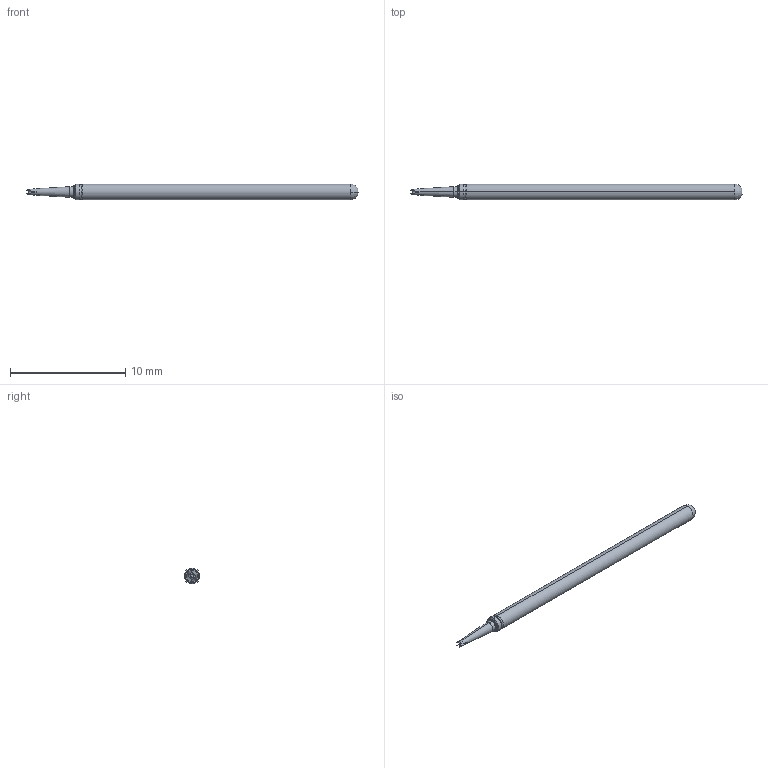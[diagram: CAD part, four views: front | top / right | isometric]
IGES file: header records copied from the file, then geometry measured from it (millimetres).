
Start section: SolidWorks IGES file using analytic representation for surfaces
Global section: file name: Z:\probe solid model mockups\Solidworks models\POGO-25 IGS files\POGO-25L18 RECD.IGS; native system: SolidWorks 2006 by SolidWorks Corporation; preprocessor: SolidWorks 2006 by SolidWorks Corporation; author: tsakatani; date: 071214.092917; units: inch
Bounding box: 28.78 x 1.37 x 1.37 mm (x, y, z)
Surface area: 116.6 mm2 (no closed solid volume)
Topology: 0 solids, 0 shells, 28 faces, 170 edges, 170 vertices
Faces by surface type: bspline 14, revolution 14
